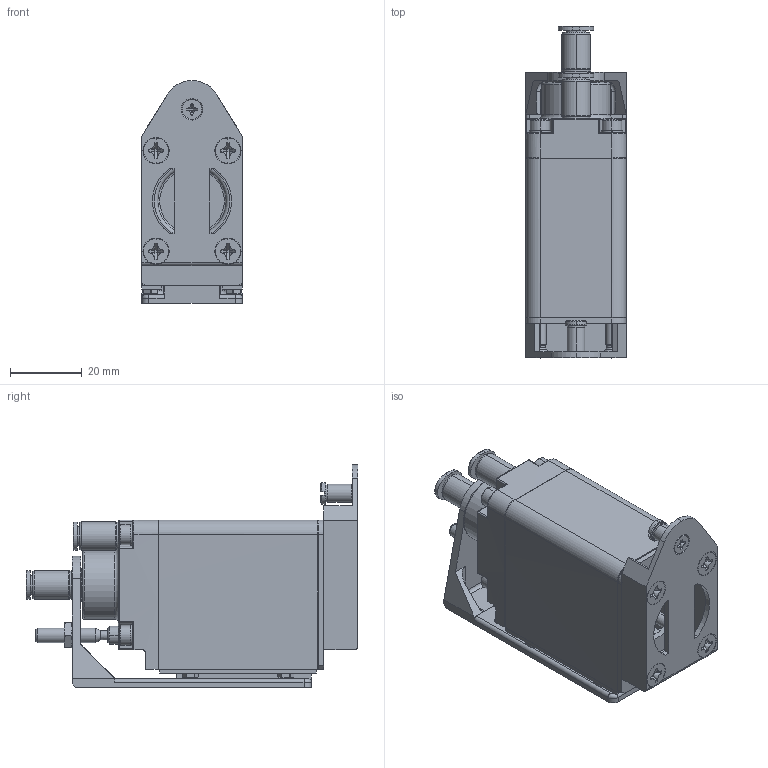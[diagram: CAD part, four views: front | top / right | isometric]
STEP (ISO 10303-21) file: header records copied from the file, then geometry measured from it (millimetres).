
FILE_DESCRIPTION (( 'STEP AP214' ), '1' );
FILE_NAME ('GT-NY10GR-4.STEP', '2019-11-27T01:59:57', ( '微软用户' ), ( '微软中国' ), 'SwSTEP 2.0', 'SolidWorks 2016', '' );
FILE_SCHEMA (( 'AUTOMOTIVE_DESIGN' ));
Length unit declared in the file: millimetre
Products named in the file (1): GT-NY10GR-4
Bounding box: 28 x 92.3 x 62 mm (x, y, z)
Surface area: 28912.8 mm2 (no closed solid volume)
Topology: 0 solids, 30 shells, 843 faces, 2136 edges, 1364 vertices
Faces by surface type: plane 369, cylinder 260, bspline 117, cone 54, torus 35, sphere 8
Entity records: 36260 total; most frequent: CARTESIAN_POINT 11422, ORIENTED_EDGE 4176, DIRECTION 3736, EDGE_CURVE 2118, AXIS2_PLACEMENT_3D 1403, VERTEX_POINT 1364, EDGE_LOOP 939, LINE 930
